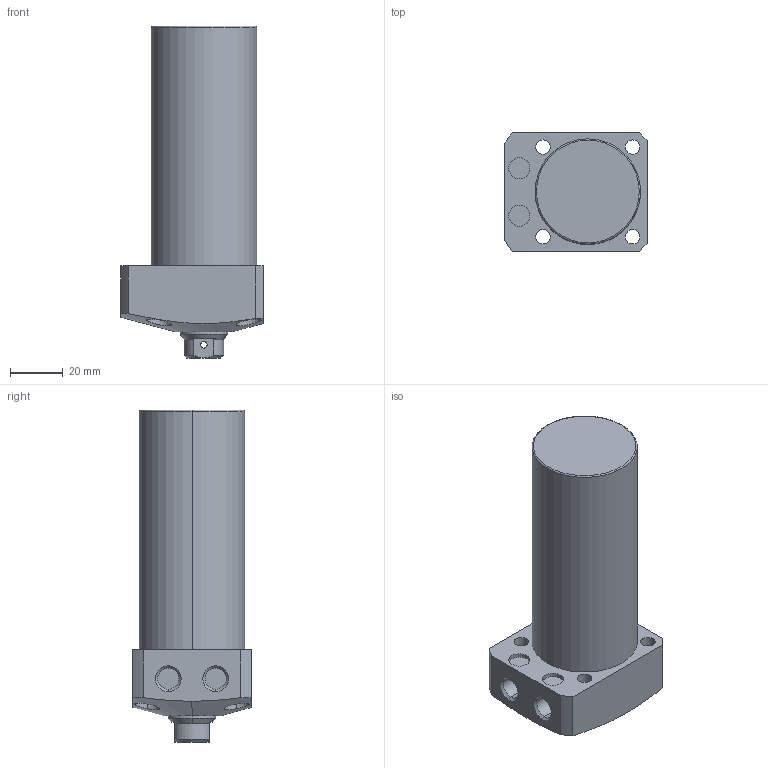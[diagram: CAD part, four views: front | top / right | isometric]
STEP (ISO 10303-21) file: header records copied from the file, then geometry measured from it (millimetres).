
FILE_DESCRIPTION (( 'STEP AP203' ), '1' );
FILE_NAME ('CLL-040CB-065.STEP', '2019-12-21T03:48:22', ( '' ), ( '' ), 'SwSTEP 2.0', 'SolidWorks 2015', '' );
FILE_SCHEMA (( 'CONFIG_CONTROL_DESIGN' ));
Length unit declared in the file: millimetre
Products named in the file (1): CLL-040CB-065
Bounding box: 54 x 45 x 126 mm (x, y, z)
Volume: 164761.3 mm3; surface area: 23568.4 mm2
Topology: 1 solids, 1 shells, 78 faces, 182 edges, 115 vertices
Faces by surface type: cylinder 39, plane 22, cone 15, torus 2
Entity records: 2721 total; most frequent: CARTESIAN_POINT 822, DIRECTION 394, ORIENTED_EDGE 360, EDGE_CURVE 180, AXIS2_PLACEMENT_3D 163, VERTEX_POINT 115, EDGE_LOOP 101, CIRCLE 84
